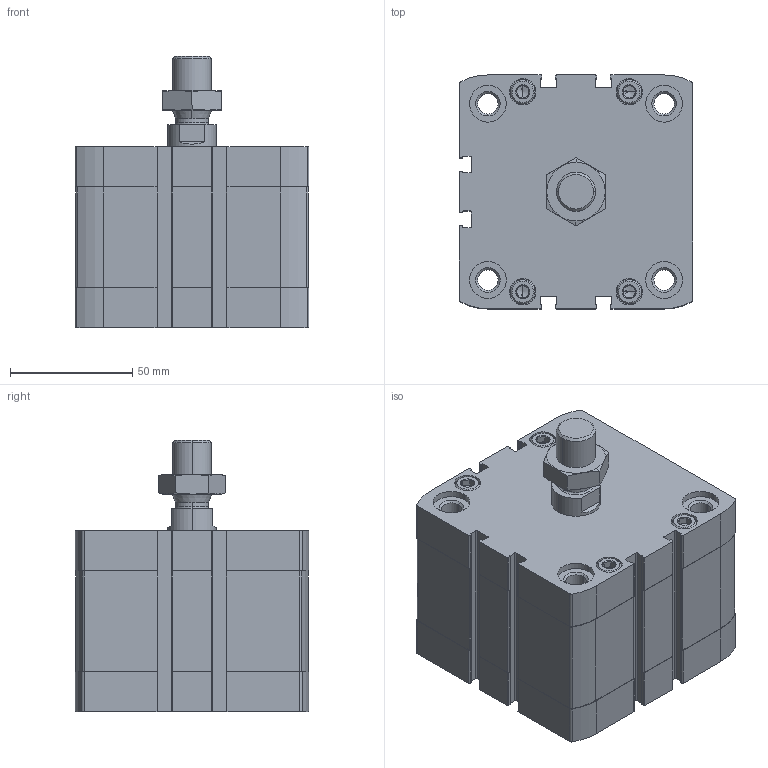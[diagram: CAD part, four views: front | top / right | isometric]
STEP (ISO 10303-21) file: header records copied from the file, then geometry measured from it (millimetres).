
FILE_DESCRIPTION (( 'STEP AP203' ), '1' );
FILE_NAME ('CCN80-20M.STEP', '2017-04-05T20:16:49', ( '' ), ( '' ), 'SwSTEP 2.0', 'SolidWorks 2016', '' );
FILE_SCHEMA (( 'CONFIG_CONTROL_DESIGN' ));
Length unit declared in the file: millimetre
Products named in the file (4): _DIN-439-B - M16x1.5(F); CCN80-20M; CCN-20---(Z); CCN-20_(KS)
Assembly tree (3 placements, depth 2):
  CCN80-20M
    CCN-20---(Z)
    CCN-20_(KS)
    _DIN-439-B - M16x1.5(F)
Bounding box: 95.5 x 95.5 x 110.9 mm (x, y, z)
Volume: 546715.1 mm3; surface area: 104436.1 mm2
Topology: 3 solids, 3 shells, 507 faces, 1276 edges, 806 vertices
Faces by surface type: plane 235, cylinder 188, cone 80, bspline 4
Entity records: 16066 total; most frequent: CARTESIAN_POINT 3291, DIRECTION 2700, ORIENTED_EDGE 2520, EDGE_CURVE 1260, AXIS2_PLACEMENT_3D 1011, VERTEX_POINT 806, LINE 678, VECTOR 678
